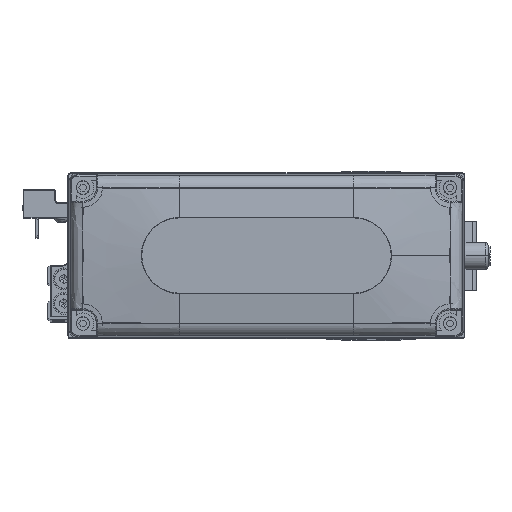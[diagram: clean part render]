
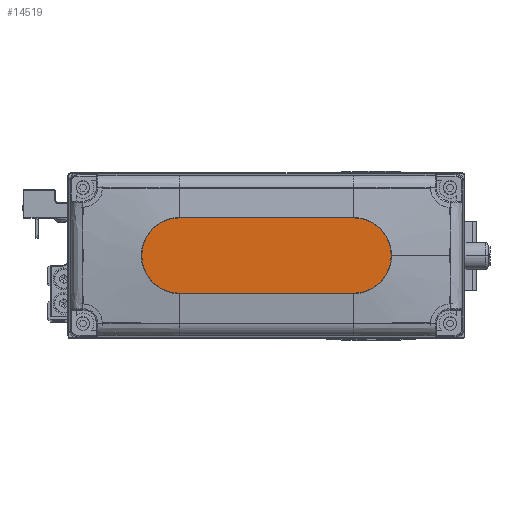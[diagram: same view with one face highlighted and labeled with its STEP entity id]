
A CAD part, top view. The second image highlights one B-rep face of the part: STEP entity #14519.
In plain terms, the highlighted planar face has unit normal (0, 0, 1).
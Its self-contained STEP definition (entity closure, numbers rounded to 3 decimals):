
#716 = DIRECTION ( 'NONE',  ( 1., 0., 0. ) ) ;
#1508 = EDGE_CURVE ( 'NONE', #39692, #31476, #8553, .T. ) ;
#2091 = DIRECTION ( 'NONE',  ( 1., 0., 0. ) ) ;
#2549 = CARTESIAN_POINT ( 'NONE',  ( 0., 0., 35. ) ) ;
#3546 = DIRECTION ( 'NONE',  ( 1., 0., 0. ) ) ;
#3963 = AXIS2_PLACEMENT_3D ( 'NONE', #19456, #33375, #2091 ) ;
#4086 = ORIENTED_EDGE ( 'NONE', *, *, #18184, .T. ) ;
#5095 = ORIENTED_EDGE ( 'NONE', *, *, #10176, .T. ) ;
#5448 = CARTESIAN_POINT ( 'NONE',  ( 32., 14., 35. ) ) ;
#7563 = CARTESIAN_POINT ( 'NONE',  ( -32., -14., 35. ) ) ;
#7723 = AXIS2_PLACEMENT_3D ( 'NONE', #18081, #32005, #716 ) ;
#8553 = CIRCLE ( 'NONE', #34069, 14. ) ;
#9539 = ORIENTED_EDGE ( 'NONE', *, *, #1508, .T. ) ;
#10176 = EDGE_CURVE ( 'NONE', #28177, #29332, #27420, .T. ) ;
#10444 = CARTESIAN_POINT ( 'NONE',  ( -32., -14., 35. ) ) ;
#11461 = CARTESIAN_POINT ( 'NONE',  ( -32., 14., 35. ) ) ;
#13753 = AXIS2_PLACEMENT_3D ( 'NONE', #2549, #16503, #30426 ) ;
#14519 = ADVANCED_FACE ( 'NONE', ( #19929 ), #33833, .T. ) ;
#16291 = VECTOR ( 'NONE', #25398, 1000. ) ;
#16503 = DIRECTION ( 'NONE',  ( 0., 0., 1. ) ) ;
#18081 = CARTESIAN_POINT ( 'NONE',  ( 32., 0., 35. ) ) ;
#18184 = EDGE_CURVE ( 'NONE', #43341, #39692, #42743, .T. ) ;
#18328 = EDGE_LOOP ( 'NONE', ( #4086, #9539, #41780, #5095, #33995 ) ) ;
#19456 = CARTESIAN_POINT ( 'NONE',  ( 32., 0., 35. ) ) ;
#19645 = EDGE_CURVE ( 'NONE', #29332, #43341, #23678, .T. ) ;
#19929 = FACE_OUTER_BOUND ( 'NONE', #18328, .T. ) ;
#20762 = CARTESIAN_POINT ( 'NONE',  ( 32., -14., 35. ) ) ;
#20909 = CARTESIAN_POINT ( 'NONE',  ( -32., 0., 35. ) ) ;
#21497 = DIRECTION ( 'NONE',  ( 1., 0., 0. ) ) ;
#22327 = CARTESIAN_POINT ( 'NONE',  ( -32., 14., 35. ) ) ;
#23678 = CIRCLE ( 'NONE', #3963, 14. ) ;
#25398 = DIRECTION ( 'NONE',  ( -1., 0., 0. ) ) ;
#27196 = CARTESIAN_POINT ( 'NONE',  ( 46., 0., 35. ) ) ;
#27420 = CIRCLE ( 'NONE', #7723, 14. ) ;
#28177 = VERTEX_POINT ( 'NONE', #20762 ) ;
#29332 = VERTEX_POINT ( 'NONE', #27196 ) ;
#30426 = DIRECTION ( 'NONE',  ( 1., 0., 0. ) ) ;
#31476 = VERTEX_POINT ( 'NONE', #10444 ) ;
#32005 = DIRECTION ( 'NONE',  ( 0., 0., 1. ) ) ;
#33375 = DIRECTION ( 'NONE',  ( 0., 0., 1. ) ) ;
#33833 = PLANE ( 'NONE',  #13753 ) ;
#33995 = ORIENTED_EDGE ( 'NONE', *, *, #19645, .T. ) ;
#34069 = AXIS2_PLACEMENT_3D ( 'NONE', #20909, #34833, #3546 ) ;
#34833 = DIRECTION ( 'NONE',  ( 0., 0., 1. ) ) ;
#36416 = VECTOR ( 'NONE', #21497, 1000. ) ;
#38842 = LINE ( 'NONE', #7563, #36416 ) ;
#39692 = VERTEX_POINT ( 'NONE', #22327 ) ;
#41525 = EDGE_CURVE ( 'NONE', #31476, #28177, #38842, .T. ) ;
#41780 = ORIENTED_EDGE ( 'NONE', *, *, #41525, .T. ) ;
#42743 = LINE ( 'NONE', #11461, #16291 ) ;
#43341 = VERTEX_POINT ( 'NONE', #5448 ) ;
